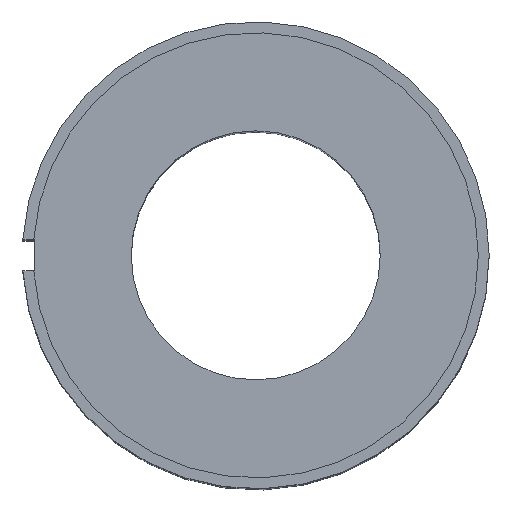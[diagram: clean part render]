
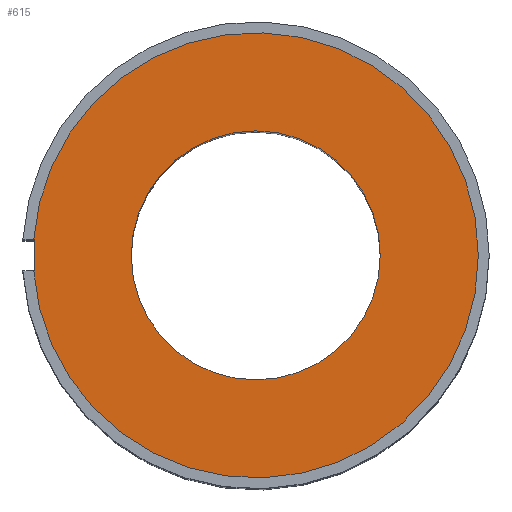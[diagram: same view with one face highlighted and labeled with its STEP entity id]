
A CAD part, top view. The second image highlights one B-rep face of the part: STEP entity #615.
In plain terms, the highlighted planar face has unit normal (0, 0, 1).
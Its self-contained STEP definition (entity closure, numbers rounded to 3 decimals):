
#91=CARTESIAN_POINT('',(-4.0,0.,24.));
#92=VERTEX_POINT('',#91);
#101=CARTESIAN_POINT('',(4.0,0.,24.));
#102=VERTEX_POINT('',#101);
#103=CARTESIAN_POINT('',(0.0,0.0,24.));
#104=DIRECTION('',(0.0,0.0,-1.0));
#105=DIRECTION('',(-1.0,0.0,0.0));
#106=AXIS2_PLACEMENT_3D('',#103,#104,#105);
#107=CIRCLE('',#106,4.0);
#108=EDGE_CURVE('',#102,#92,#107,.T.);
#385=CARTESIAN_POINT('',(-7.132,-0.5,24.));
#386=VERTEX_POINT('',#385);
#393=CARTESIAN_POINT('',(-7.1,-0.5,24.));
#394=VERTEX_POINT('',#393);
#395=CARTESIAN_POINT('',(-7.1,-0.5,24.));
#396=DIRECTION('',(-1.0,0.0,0.0));
#397=VECTOR('',#396,0.032);
#398=LINE('',#395,#397);
#399=EDGE_CURVE('',#394,#386,#398,.T.);
#533=CARTESIAN_POINT('',(-7.1,0.5,24.));
#534=VERTEX_POINT('',#533);
#541=CARTESIAN_POINT('',(-7.132,0.5,24.));
#542=VERTEX_POINT('',#541);
#543=CARTESIAN_POINT('',(-7.132,0.5,24.));
#544=DIRECTION('',(1.0,0.0,0.0));
#545=VECTOR('',#544,0.032);
#546=LINE('',#543,#545);
#547=EDGE_CURVE('',#542,#534,#546,.T.);
#578=CARTESIAN_POINT('',(-7.1,0.5,24.));
#579=DIRECTION('',(0.0,-1.0,0.0));
#580=VECTOR('',#579,1.0);
#581=LINE('',#578,#580);
#582=EDGE_CURVE('',#534,#394,#581,.T.);
#588=CARTESIAN_POINT('',(0.0,0.0,24.));
#589=DIRECTION('',(0.0,0.0,-1.0));
#590=DIRECTION('',(-1.0,0.0,0.0));
#591=AXIS2_PLACEMENT_3D('',#588,#589,#590);
#592=PLANE('',#591);
#593=ORIENTED_EDGE('',*,*,#547,.T.);
#594=ORIENTED_EDGE('',*,*,#582,.T.);
#595=ORIENTED_EDGE('',*,*,#399,.T.);
#596=CARTESIAN_POINT('',(0.0,0.0,24.));
#597=DIRECTION('',(0.0,0.0,-1.0));
#598=DIRECTION('',(1.0,0.0,0.0));
#599=AXIS2_PLACEMENT_3D('',#596,#597,#598);
#600=CIRCLE('',#599,7.15);
#601=EDGE_CURVE('',#542,#386,#600,.T.);
#602=ORIENTED_EDGE('',*,*,#601,.F.);
#603=EDGE_LOOP('',(#593,#594,#595,#602));
#604=FACE_OUTER_BOUND('',#603,.T.);
#605=ORIENTED_EDGE('',*,*,#108,.T.);
#606=CARTESIAN_POINT('',(0.0,0.0,24.));
#607=DIRECTION('',(0.0,0.0,-1.0));
#608=DIRECTION('',(-1.0,0.0,0.0));
#609=AXIS2_PLACEMENT_3D('',#606,#607,#608);
#610=CIRCLE('',#609,4.0);
#611=EDGE_CURVE('',#92,#102,#610,.T.);
#612=ORIENTED_EDGE('',*,*,#611,.T.);
#613=EDGE_LOOP('',(#605,#612));
#614=FACE_BOUND('',#613,.T.);
#615=ADVANCED_FACE('',(#604,#614),#592,.F.);
